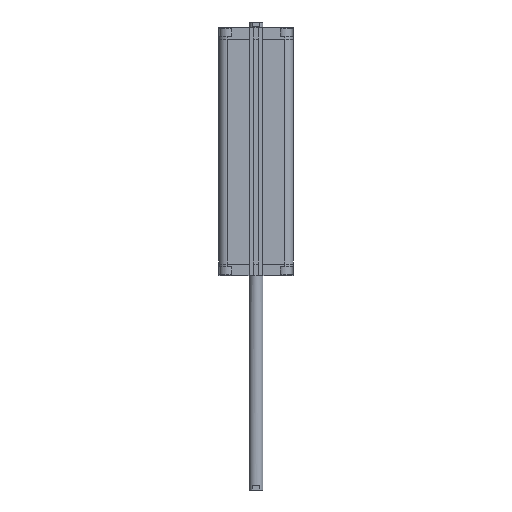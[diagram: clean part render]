
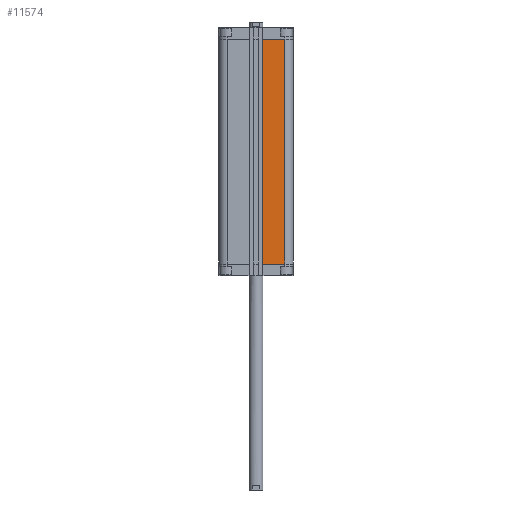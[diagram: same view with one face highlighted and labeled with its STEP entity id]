
A CAD part, front view. The second image highlights one B-rep face of the part: STEP entity #11574.
In plain terms, the highlighted planar face has unit normal (0, -1, 0).
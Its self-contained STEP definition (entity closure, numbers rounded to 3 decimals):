
#108 = LINE ( 'NONE', #4942, #18848 ) ;
#675 = ORIENTED_EDGE ( 'NONE', *, *, #12044, .F. ) ;
#743 = EDGE_CURVE ( 'NONE', #5425, #5970, #108, .T. ) ;
#1018 = AXIS2_PLACEMENT_3D ( 'NONE', #7134, #1317, #20772 ) ;
#1317 = DIRECTION ( 'NONE',  ( 0., -1., 0. ) ) ;
#1389 = CARTESIAN_POINT ( 'NONE',  ( 9.95, -53.5, -339.5 ) ) ;
#1611 = EDGE_CURVE ( 'NONE', #13804, #5425, #9846, .T. ) ;
#3059 = ORIENTED_EDGE ( 'NONE', *, *, #743, .T. ) ;
#3657 = DIRECTION ( 'NONE',  ( 0., 0., 1. ) ) ;
#4942 = CARTESIAN_POINT ( 'NONE',  ( 41., -53.5, -339.5 ) ) ;
#5425 = VERTEX_POINT ( 'NONE', #16504 ) ;
#5970 = VERTEX_POINT ( 'NONE', #18595 ) ;
#7134 = CARTESIAN_POINT ( 'NONE',  ( 9.95, -53.5, -339.5 ) ) ;
#7590 = EDGE_CURVE ( 'NONE', #13804, #11584, #12074, .T. ) ;
#9200 = VECTOR ( 'NONE', #9639, 1000. ) ;
#9639 = DIRECTION ( 'NONE',  ( 1., 0., 0. ) ) ;
#9846 = LINE ( 'NONE', #19412, #9200 ) ;
#11574 = ADVANCED_FACE ( 'NONE', ( #15446 ), #12527, .T. ) ;
#11584 = VERTEX_POINT ( 'NONE', #19061 ) ;
#12044 = EDGE_CURVE ( 'NONE', #11584, #5970, #14318, .T. ) ;
#12074 = LINE ( 'NONE', #12173, #17648 ) ;
#12173 = CARTESIAN_POINT ( 'NONE',  ( 9.95, -53.5, -339.5 ) ) ;
#12527 = PLANE ( 'NONE',  #1018 ) ;
#12717 = DIRECTION ( 'NONE',  ( 1., 0., 0. ) ) ;
#12860 = ORIENTED_EDGE ( 'NONE', *, *, #1611, .T. ) ;
#13804 = VERTEX_POINT ( 'NONE', #1389 ) ;
#14254 = EDGE_LOOP ( 'NONE', ( #675, #15310, #12860, #3059 ) ) ;
#14318 = LINE ( 'NONE', #15829, #16507 ) ;
#15310 = ORIENTED_EDGE ( 'NONE', *, *, #7590, .F. ) ;
#15446 = FACE_OUTER_BOUND ( 'NONE', #14254, .T. ) ;
#15829 = CARTESIAN_POINT ( 'NONE',  ( 9.95, -53.5, -16.5 ) ) ;
#16504 = CARTESIAN_POINT ( 'NONE',  ( 41., -53.5, -339.5 ) ) ;
#16507 = VECTOR ( 'NONE', #12717, 1000. ) ;
#17648 = VECTOR ( 'NONE', #3657, 1000. ) ;
#18160 = DIRECTION ( 'NONE',  ( 0., 0., 1. ) ) ;
#18595 = CARTESIAN_POINT ( 'NONE',  ( 41., -53.5, -16.5 ) ) ;
#18848 = VECTOR ( 'NONE', #18160, 1000. ) ;
#19061 = CARTESIAN_POINT ( 'NONE',  ( 9.95, -53.5, -16.5 ) ) ;
#19412 = CARTESIAN_POINT ( 'NONE',  ( 9.95, -53.5, -339.5 ) ) ;
#20772 = DIRECTION ( 'NONE',  ( -1., 0., 0. ) ) ;
